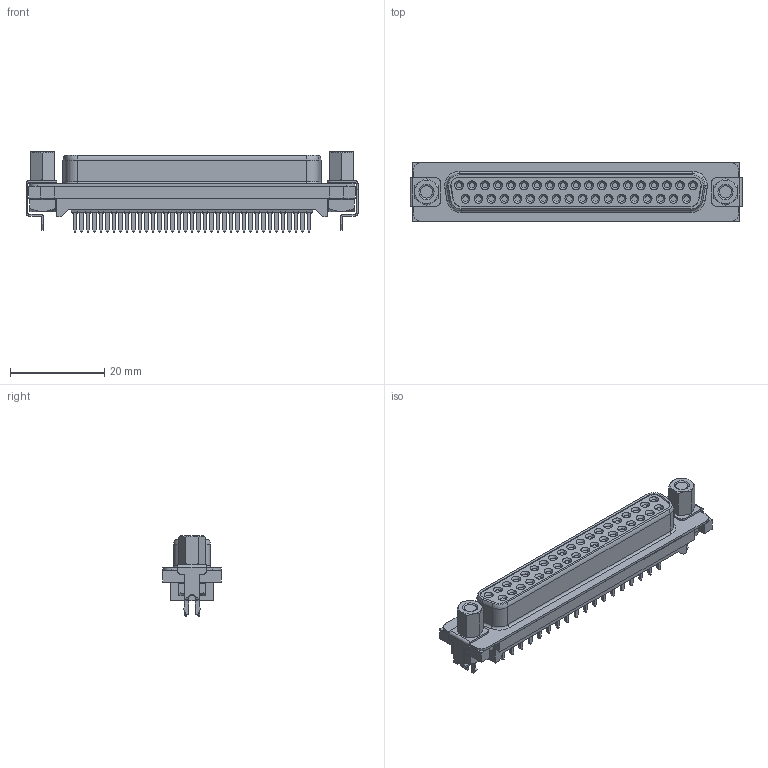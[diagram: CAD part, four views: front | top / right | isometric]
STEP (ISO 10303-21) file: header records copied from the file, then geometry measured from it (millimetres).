
FILE_DESCRIPTION (( 'STEP AP203' ), '1' );
FILE_NAME ('17JE-13370-37(D23A)-FA.STEP', '2021-12-21T10:40:04', ( '' ), ( '' ), 'SwSTEP 2.0', 'SolidWorks 2018', '' );
FILE_SCHEMA (( 'CONFIG_CONTROL_DESIGN' ));
Length unit declared in the file: millimetre
Products named in the file (1): 17JE-13370-37(D23A)-FA
Bounding box: 70.5 x 12.5 x 17 mm (x, y, z)
Volume: 6754.3 mm3; surface area: 6651.9 mm2
Topology: 1 solids, 5 shells, 1305 faces, 3369 edges, 2166 vertices
Faces by surface type: plane 902, cylinder 242, cone 103, torus 58
Entity records: 39766 total; most frequent: CARTESIAN_POINT 7201, DIRECTION 6787, ORIENTED_EDGE 6738, EDGE_CURVE 3369, VECTOR 2451, LINE 2451, AXIS2_PLACEMENT_3D 2168, VERTEX_POINT 2166
